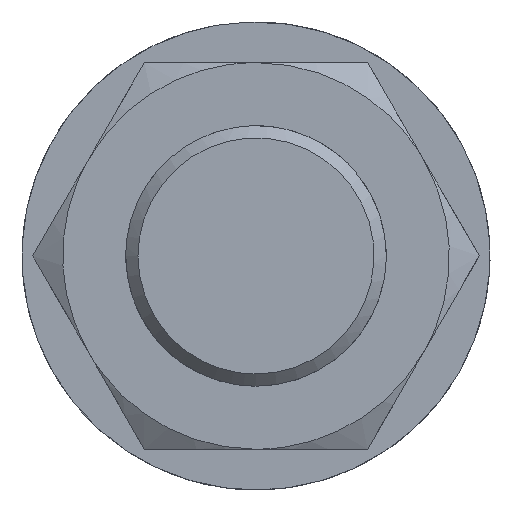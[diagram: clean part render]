
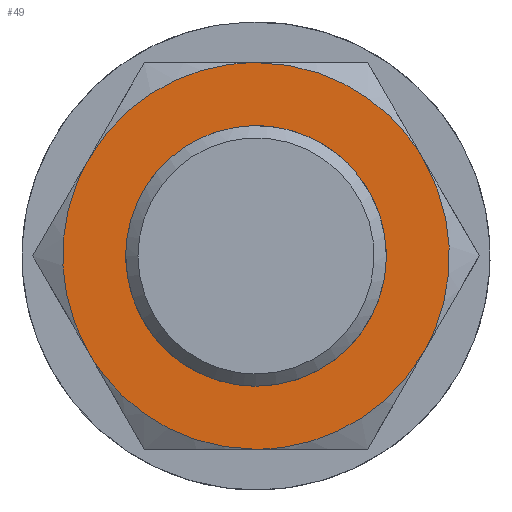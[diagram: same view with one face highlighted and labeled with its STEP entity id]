
A CAD part, left-side view. The second image highlights one B-rep face of the part: STEP entity #49.
In plain terms, the highlighted planar face has unit normal (-1, 0, 0).
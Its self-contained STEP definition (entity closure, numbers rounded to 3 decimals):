
#40=FACE_BOUND('',#138,.T.);
#49=ADVANCED_FACE('',(#92,#40),#658,.T.);
#92=FACE_OUTER_BOUND('',#137,.T.);
#137=EDGE_LOOP('',(#202,#203,#204,#205,#206,#207));
#138=EDGE_LOOP('',(#208,#209));
#202=ORIENTED_EDGE('',*,*,#403,.F.);
#203=ORIENTED_EDGE('',*,*,#405,.F.);
#204=ORIENTED_EDGE('',*,*,#406,.F.);
#205=ORIENTED_EDGE('',*,*,#404,.F.);
#206=ORIENTED_EDGE('',*,*,#402,.F.);
#207=ORIENTED_EDGE('',*,*,#401,.F.);
#208=ORIENTED_EDGE('',*,*,#391,.F.);
#209=ORIENTED_EDGE('',*,*,#389,.F.);
#389=EDGE_CURVE('',#604,#594,#515,.T.);
#391=EDGE_CURVE('',#594,#604,#516,.T.);
#401=EDGE_CURVE('',#598,#599,#524,.T.);
#402=EDGE_CURVE('',#599,#603,#525,.T.);
#403=EDGE_CURVE('',#600,#598,#526,.T.);
#404=EDGE_CURVE('',#603,#602,#527,.T.);
#405=EDGE_CURVE('',#601,#600,#528,.T.);
#406=EDGE_CURVE('',#602,#601,#529,.T.);
#515=(
BOUNDED_CURVE()
B_SPLINE_CURVE(2,(#1161,#1162,#1163,#1164,#1165),.UNSPECIFIED.,.F.,.F.)
B_SPLINE_CURVE_WITH_KNOTS((3,2,3),(100.531,150.797,201.063),
 .UNSPECIFIED.)
CURVE()
GEOMETRIC_REPRESENTATION_ITEM()
RATIONAL_B_SPLINE_CURVE((1.,0.707,1.,0.707,1.))
REPRESENTATION_ITEM('')
);
#516=(
BOUNDED_CURVE()
B_SPLINE_CURVE(2,(#1168,#1169,#1170,#1171,#1172),.UNSPECIFIED.,.F.,.F.)
B_SPLINE_CURVE_WITH_KNOTS((3,2,3),(0.,50.266,100.531),
 .UNSPECIFIED.)
CURVE()
GEOMETRIC_REPRESENTATION_ITEM()
RATIONAL_B_SPLINE_CURVE((1.,0.707,1.,0.707,1.))
REPRESENTATION_ITEM('')
);
#524=(
BOUNDED_CURVE()
B_SPLINE_CURVE(2,(#1210,#1211,#1212),.UNSPECIFIED.,.F.,.F.)
B_SPLINE_CURVE_WITH_KNOTS((3,3),(0.,49.742),.UNSPECIFIED.)
CURVE()
GEOMETRIC_REPRESENTATION_ITEM()
RATIONAL_B_SPLINE_CURVE((1.,0.866,1.))
REPRESENTATION_ITEM('')
);
#525=(
BOUNDED_CURVE()
B_SPLINE_CURVE(2,(#1213,#1214,#1215),.UNSPECIFIED.,.F.,.F.)
B_SPLINE_CURVE_WITH_KNOTS((3,3),(0.,49.742),.UNSPECIFIED.)
CURVE()
GEOMETRIC_REPRESENTATION_ITEM()
RATIONAL_B_SPLINE_CURVE((1.,0.866,1.))
REPRESENTATION_ITEM('')
);
#526=(
BOUNDED_CURVE()
B_SPLINE_CURVE(2,(#1216,#1217,#1218),.UNSPECIFIED.,.F.,.F.)
B_SPLINE_CURVE_WITH_KNOTS((3,3),(0.,49.742),.UNSPECIFIED.)
CURVE()
GEOMETRIC_REPRESENTATION_ITEM()
RATIONAL_B_SPLINE_CURVE((1.,0.866,1.))
REPRESENTATION_ITEM('')
);
#527=(
BOUNDED_CURVE()
B_SPLINE_CURVE(2,(#1219,#1220,#1221),.UNSPECIFIED.,.F.,.F.)
B_SPLINE_CURVE_WITH_KNOTS((3,3),(0.,49.742),.UNSPECIFIED.)
CURVE()
GEOMETRIC_REPRESENTATION_ITEM()
RATIONAL_B_SPLINE_CURVE((1.,0.866,1.))
REPRESENTATION_ITEM('')
);
#528=(
BOUNDED_CURVE()
B_SPLINE_CURVE(2,(#1222,#1223,#1224),.UNSPECIFIED.,.F.,.F.)
B_SPLINE_CURVE_WITH_KNOTS((3,3),(0.,49.742),.UNSPECIFIED.)
CURVE()
GEOMETRIC_REPRESENTATION_ITEM()
RATIONAL_B_SPLINE_CURVE((1.,0.866,1.))
REPRESENTATION_ITEM('')
);
#529=(
BOUNDED_CURVE()
B_SPLINE_CURVE(2,(#1225,#1226,#1227),.UNSPECIFIED.,.F.,.F.)
B_SPLINE_CURVE_WITH_KNOTS((3,3),(0.,49.742),.UNSPECIFIED.)
CURVE()
GEOMETRIC_REPRESENTATION_ITEM()
RATIONAL_B_SPLINE_CURVE((1.,0.866,1.))
REPRESENTATION_ITEM('')
);
#594=VERTEX_POINT('',#1129);
#598=VERTEX_POINT('',#1133);
#599=VERTEX_POINT('',#1134);
#600=VERTEX_POINT('',#1135);
#601=VERTEX_POINT('',#1136);
#602=VERTEX_POINT('',#1137);
#603=VERTEX_POINT('',#1138);
#604=VERTEX_POINT('',#1139);
#658=PLANE('',#772);
#772=AXIS2_PLACEMENT_3D('',#886,#798,$);
#798=DIRECTION('',(-1.,0.,0.));
#886=CARTESIAN_POINT('',(83.667,-65.938,57.12));
#1129=CARTESIAN_POINT('',(83.667,0.,-32.));
#1133=CARTESIAN_POINT('',(83.667,-41.136,23.75));
#1134=CARTESIAN_POINT('',(83.667,-41.136,-23.75));
#1135=CARTESIAN_POINT('',(83.667,0.,47.5));
#1136=CARTESIAN_POINT('',(83.667,41.136,23.75));
#1137=CARTESIAN_POINT('',(83.667,41.136,-23.75));
#1138=CARTESIAN_POINT('',(83.667,0.,-47.5));
#1139=CARTESIAN_POINT('',(83.667,0.,32.));
#1161=CARTESIAN_POINT('',(83.667,0.,32.));
#1162=CARTESIAN_POINT('',(83.667,32.,32.));
#1163=CARTESIAN_POINT('',(83.667,32.,0.));
#1164=CARTESIAN_POINT('',(83.667,32.,-32.));
#1165=CARTESIAN_POINT('',(83.667,0.,-32.));
#1168=CARTESIAN_POINT('',(83.667,0.,-32.));
#1169=CARTESIAN_POINT('',(83.667,-32.,-32.));
#1170=CARTESIAN_POINT('',(83.667,-32.,0.));
#1171=CARTESIAN_POINT('',(83.667,-32.,32.));
#1172=CARTESIAN_POINT('',(83.667,0.,32.));
#1210=CARTESIAN_POINT('',(83.667,-41.136,23.75));
#1211=CARTESIAN_POINT('',(83.667,-54.848,0.));
#1212=CARTESIAN_POINT('',(83.667,-41.136,-23.75));
#1213=CARTESIAN_POINT('',(83.667,-41.136,-23.75));
#1214=CARTESIAN_POINT('',(83.667,-27.424,-47.5));
#1215=CARTESIAN_POINT('',(83.667,0.,-47.5));
#1216=CARTESIAN_POINT('',(83.667,0.,47.5));
#1217=CARTESIAN_POINT('',(83.667,-27.424,47.5));
#1218=CARTESIAN_POINT('',(83.667,-41.136,23.75));
#1219=CARTESIAN_POINT('',(83.667,0.,-47.5));
#1220=CARTESIAN_POINT('',(83.667,27.424,-47.5));
#1221=CARTESIAN_POINT('',(83.667,41.136,-23.75));
#1222=CARTESIAN_POINT('',(83.667,41.136,23.75));
#1223=CARTESIAN_POINT('',(83.667,27.424,47.5));
#1224=CARTESIAN_POINT('',(83.667,0.,47.5));
#1225=CARTESIAN_POINT('',(83.667,41.136,-23.75));
#1226=CARTESIAN_POINT('',(83.667,54.848,0.));
#1227=CARTESIAN_POINT('',(83.667,41.136,23.75));
